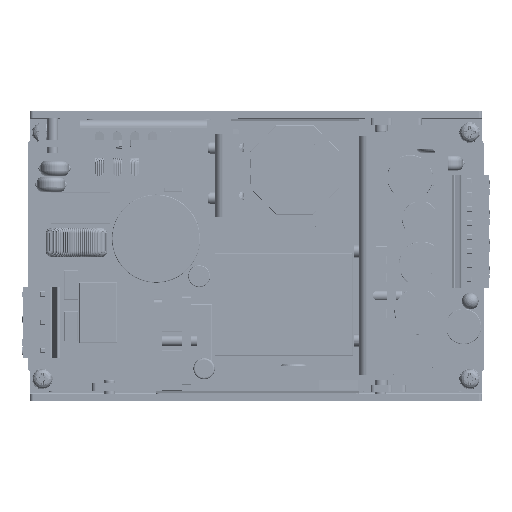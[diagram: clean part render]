
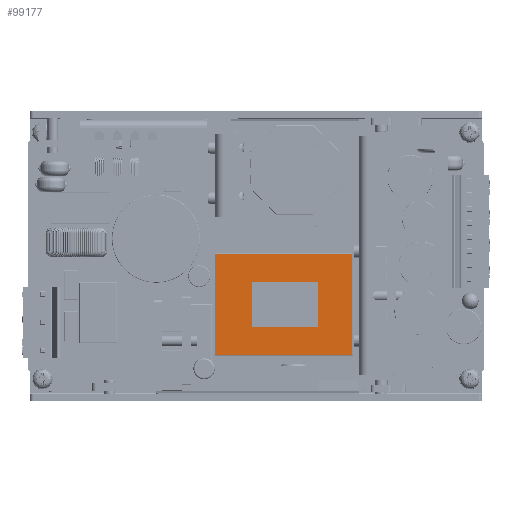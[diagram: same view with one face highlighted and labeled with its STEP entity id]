
A CAD part, top view. The second image highlights one B-rep face of the part: STEP entity #99177.
In plain terms, the highlighted planar face has unit normal (0, 0, 1).
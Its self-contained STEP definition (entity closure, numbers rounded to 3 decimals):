
#7431=FACE_BOUND($,#17311,.T.);
#7432=FACE_BOUND($,#17312,.T.);
#7975=PLANE($,#107087);
#17311=EDGE_LOOP($,(#65069,#65070,#65071,#65072));
#17312=EDGE_LOOP($,(#65073,#65074,#65075,#65076));
#25250=LINE($,#158618,#29974);
#25253=LINE($,#158624,#29977);
#25256=LINE($,#158630,#29980);
#25259=LINE($,#158634,#29983);
#25398=LINE($,#159002,#30122);
#25400=LINE($,#159010,#30124);
#25402=LINE($,#159016,#30126);
#25404=LINE($,#159021,#30128);
#29974=VECTOR($,#123059,12.539);
#29977=VECTOR($,#123064,18.524);
#29980=VECTOR($,#123069,12.539);
#29983=VECTOR($,#123074,18.524);
#30122=VECTOR($,#123443,38.294);
#30124=VECTOR($,#123451,28.374);
#30126=VECTOR($,#123457,38.294);
#30128=VECTOR($,#123463,28.374);
#42002=VERTEX_POINT($,#158615);
#42003=VERTEX_POINT($,#158617);
#42005=VERTEX_POINT($,#158623);
#42007=VERTEX_POINT($,#158629);
#42120=VERTEX_POINT($,#159000);
#42121=VERTEX_POINT($,#159001);
#42124=VERTEX_POINT($,#159009);
#42126=VERTEX_POINT($,#159015);
#49599=EDGE_CURVE($,#42003,#42002,#25250,.T.);
#49602=EDGE_CURVE($,#42005,#42003,#25253,.T.);
#49605=EDGE_CURVE($,#42007,#42005,#25256,.T.);
#49608=EDGE_CURVE($,#42002,#42007,#25259,.T.);
#49784=EDGE_CURVE($,#42120,#42121,#25398,.T.);
#49788=EDGE_CURVE($,#42121,#42124,#25400,.T.);
#49791=EDGE_CURVE($,#42124,#42126,#25402,.T.);
#49794=EDGE_CURVE($,#42126,#42120,#25404,.T.);
#65069=ORIENTED_EDGE($,*,*,#49599,.T.);
#65070=ORIENTED_EDGE($,*,*,#49608,.T.);
#65071=ORIENTED_EDGE($,*,*,#49605,.T.);
#65072=ORIENTED_EDGE($,*,*,#49602,.T.);
#65073=ORIENTED_EDGE($,*,*,#49784,.F.);
#65074=ORIENTED_EDGE($,*,*,#49794,.F.);
#65075=ORIENTED_EDGE($,*,*,#49791,.F.);
#65076=ORIENTED_EDGE($,*,*,#49788,.F.);
#99177=ADVANCED_FACE($,(#7431,#7432),#7975,.T.);
#107087=AXIS2_PLACEMENT_3D($,#159033,#123474,#123475);
#123059=DIRECTION($,(0.,1.,0.));
#123064=DIRECTION($,(-1.,0.,0.));
#123069=DIRECTION($,(0.,-1.,0.));
#123074=DIRECTION($,(1.,0.,0.));
#123443=DIRECTION($,(1.,0.,0.));
#123451=DIRECTION($,(0.,-1.,0.));
#123457=DIRECTION($,(-1.,0.,0.));
#123463=DIRECTION($,(0.,1.,0.));
#123474=DIRECTION('center_axis',(0.,0.,
1.));
#123475=DIRECTION('ref_axis',(1.,0.,0.));
#158615=CARTESIAN_POINT('',(62.385,30.647,22.6));
#158617=CARTESIAN_POINT('',(62.385,18.108,22.6));
#158618=CARTESIAN_POINT($,(62.385,27.547,22.6));
#158623=CARTESIAN_POINT('',(80.909,18.108,22.6));
#158624=CARTESIAN_POINT($,(66.83,18.108,22.6));
#158629=CARTESIAN_POINT('',(80.909,30.647,22.6));
#158630=CARTESIAN_POINT($,(80.909,21.277,22.6));
#158634=CARTESIAN_POINT($,(76.092,30.647,22.6));
#159000=CARTESIAN_POINT('',(52.127,38.633,22.6));
#159001=CARTESIAN_POINT('',(90.422,38.633,22.6));
#159002=CARTESIAN_POINT($,(61.601,38.633,22.6));
#159009=CARTESIAN_POINT('',(90.422,10.259,22.6));
#159010=CARTESIAN_POINT($,(90.422,31.639,22.6));
#159015=CARTESIAN_POINT('',(52.127,10.259,22.6));
#159016=CARTESIAN_POINT($,(80.948,10.259,22.6));
#159021=CARTESIAN_POINT($,(52.127,17.252,22.6));
#159033=CARTESIAN_POINT('Origin',(71.274,24.446,22.6));
